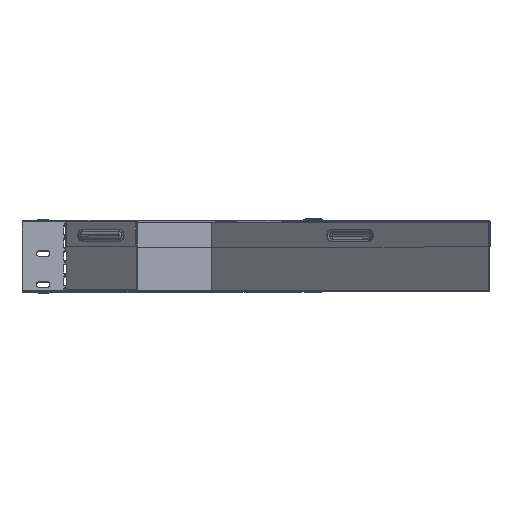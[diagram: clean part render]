
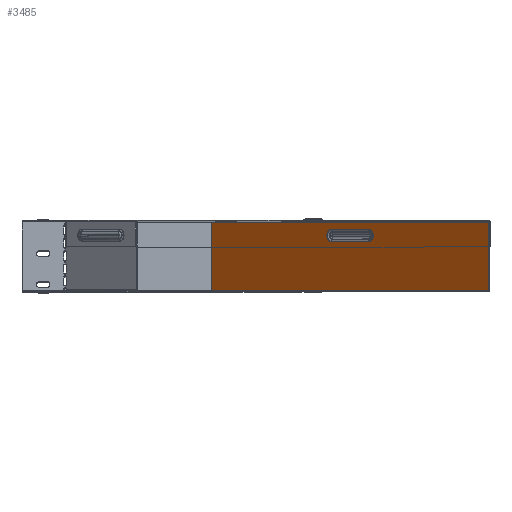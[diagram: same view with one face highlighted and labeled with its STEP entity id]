
A CAD part, top view. The second image highlights one B-rep face of the part: STEP entity #3485.
In plain terms, the highlighted planar face has unit normal (-0.707, 0, 0.707).
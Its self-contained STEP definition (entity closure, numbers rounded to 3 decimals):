
#692 = DIRECTION ( 'NONE',  ( 0., 1., 0. ) ) ;
#1138 = CARTESIAN_POINT ( 'NONE',  ( -50.255, 78.2, -264.123 ) ) ;
#2132 = VECTOR ( 'NONE', #13067, 1000. ) ;
#2162 = CARTESIAN_POINT ( 'NONE',  ( 106.934, 70.017, -106.934 ) ) ;
#2742 = DIRECTION ( 'NONE',  ( -0.707, 0., 0.707 ) ) ;
#2945 = DIRECTION ( 'NONE',  ( 0., 1., 0. ) ) ;
#3485 = ADVANCED_FACE ( 'NONE', ( #8350, #6396 ), #19196, .T. ) ;
#3604 = CARTESIAN_POINT ( 'NONE',  ( -50.255, 0., -264.123 ) ) ;
#3607 = DIRECTION ( 'NONE',  ( -0.707, 0., -0.707 ) ) ;
#3734 = VERTEX_POINT ( 'NONE', #13503 ) ;
#3760 = DIRECTION ( 'NONE',  ( -0.707, 0., -0.707 ) ) ;
#3778 = EDGE_CURVE ( 'NONE', #13516, #3734, #20416, .T. ) ;
#3854 = CARTESIAN_POINT ( 'NONE',  ( 264.123, 0., 50.255 ) ) ;
#3956 = LINE ( 'NONE', #4928, #7686 ) ;
#4447 = CIRCLE ( 'NONE', #14954, 6.917 ) ;
#4593 = VERTEX_POINT ( 'NONE', #10738 ) ;
#4928 = CARTESIAN_POINT ( 'NONE',  ( 264.434, 1., 50.566 ) ) ;
#5045 = DIRECTION ( 'NONE',  ( -0.707, 0., 0.707 ) ) ;
#5722 = ORIENTED_EDGE ( 'NONE', *, *, #18851, .F. ) ;
#6289 = CARTESIAN_POINT ( 'NONE',  ( 264.434, 78.2, 50.566 ) ) ;
#6396 = FACE_OUTER_BOUND ( 'NONE', #10790, .T. ) ;
#6525 = CARTESIAN_POINT ( 'NONE',  ( -50.255, 1., -264.123 ) ) ;
#6650 = DIRECTION ( 'NONE',  ( 0.707, 0., 0.707 ) ) ;
#6735 = AXIS2_PLACEMENT_3D ( 'NONE', #14543, #5045, #6650 ) ;
#7558 = VECTOR ( 'NONE', #18766, 1000. ) ;
#7686 = VECTOR ( 'NONE', #3607, 1000. ) ;
#7712 = VERTEX_POINT ( 'NONE', #12319 ) ;
#7721 = CARTESIAN_POINT ( 'NONE',  ( 106.934, 56.183, -106.934 ) ) ;
#8187 = EDGE_CURVE ( 'NONE', #7712, #11098, #14679, .T. ) ;
#8218 = LINE ( 'NONE', #2162, #19062 ) ;
#8350 = FACE_BOUND ( 'NONE', #10369, .T. ) ;
#9327 = VERTEX_POINT ( 'NONE', #19431 ) ;
#10200 = EDGE_CURVE ( 'NONE', #9327, #14726, #4447, .T. ) ;
#10368 = EDGE_CURVE ( 'NONE', #4593, #3734, #16496, .T. ) ;
#10369 = EDGE_LOOP ( 'NONE', ( #19627, #15780, #15648, #5722 ) ) ;
#10377 = ORIENTED_EDGE ( 'NONE', *, *, #17233, .F. ) ;
#10738 = CARTESIAN_POINT ( 'NONE',  ( 264.123, 1., 50.255 ) ) ;
#10790 = EDGE_LOOP ( 'NONE', ( #18571, #14903, #16530, #10377 ) ) ;
#11050 = EDGE_CURVE ( 'NONE', #4593, #16845, #3956, .T. ) ;
#11098 = VERTEX_POINT ( 'NONE', #17823 ) ;
#11556 = VECTOR ( 'NONE', #692, 1000. ) ;
#12039 = VECTOR ( 'NONE', #17383, 1000. ) ;
#12319 = CARTESIAN_POINT ( 'NONE',  ( 128.148, 56.183, -85.721 ) ) ;
#12518 = DIRECTION ( 'NONE',  ( 0., 1., 0. ) ) ;
#13067 = DIRECTION ( 'NONE',  ( 0., 1., 0. ) ) ;
#13503 = CARTESIAN_POINT ( 'NONE',  ( 264.123, 78.2, 50.255 ) ) ;
#13516 = VERTEX_POINT ( 'NONE', #1138 ) ;
#14229 = CARTESIAN_POINT ( 'NONE',  ( 85.721, 56.183, -128.148 ) ) ;
#14526 = AXIS2_PLACEMENT_3D ( 'NONE', #16788, #2742, #2945 ) ;
#14543 = CARTESIAN_POINT ( 'NONE',  ( 106.934, 0., -106.934 ) ) ;
#14636 = EDGE_CURVE ( 'NONE', #11098, #9327, #8218, .T. ) ;
#14679 = CIRCLE ( 'NONE', #14526, 6.917 ) ;
#14726 = VERTEX_POINT ( 'NONE', #14229 ) ;
#14903 = ORIENTED_EDGE ( 'NONE', *, *, #10368, .T. ) ;
#14954 = AXIS2_PLACEMENT_3D ( 'NONE', #20216, #15631, #12518 ) ;
#15631 = DIRECTION ( 'NONE',  ( -0.707, 0., 0.707 ) ) ;
#15648 = ORIENTED_EDGE ( 'NONE', *, *, #8187, .F. ) ;
#15780 = ORIENTED_EDGE ( 'NONE', *, *, #14636, .F. ) ;
#16452 = LINE ( 'NONE', #7721, #7558 ) ;
#16496 = LINE ( 'NONE', #3854, #2132 ) ;
#16530 = ORIENTED_EDGE ( 'NONE', *, *, #3778, .F. ) ;
#16788 = CARTESIAN_POINT ( 'NONE',  ( 128.148, 63.1, -85.721 ) ) ;
#16845 = VERTEX_POINT ( 'NONE', #6525 ) ;
#17233 = EDGE_CURVE ( 'NONE', #16845, #13516, #19200, .T. ) ;
#17383 = DIRECTION ( 'NONE',  ( 0.707, 0., 0.707 ) ) ;
#17823 = CARTESIAN_POINT ( 'NONE',  ( 128.148, 70.017, -85.721 ) ) ;
#18571 = ORIENTED_EDGE ( 'NONE', *, *, #11050, .F. ) ;
#18766 = DIRECTION ( 'NONE',  ( 0.707, 0., 0.707 ) ) ;
#18851 = EDGE_CURVE ( 'NONE', #14726, #7712, #16452, .T. ) ;
#19062 = VECTOR ( 'NONE', #3760, 1000. ) ;
#19196 = PLANE ( 'NONE',  #6735 ) ;
#19200 = LINE ( 'NONE', #3604, #11556 ) ;
#19431 = CARTESIAN_POINT ( 'NONE',  ( 85.721, 70.017, -128.148 ) ) ;
#19627 = ORIENTED_EDGE ( 'NONE', *, *, #10200, .F. ) ;
#20216 = CARTESIAN_POINT ( 'NONE',  ( 85.721, 63.1, -128.148 ) ) ;
#20416 = LINE ( 'NONE', #6289, #12039 ) ;
